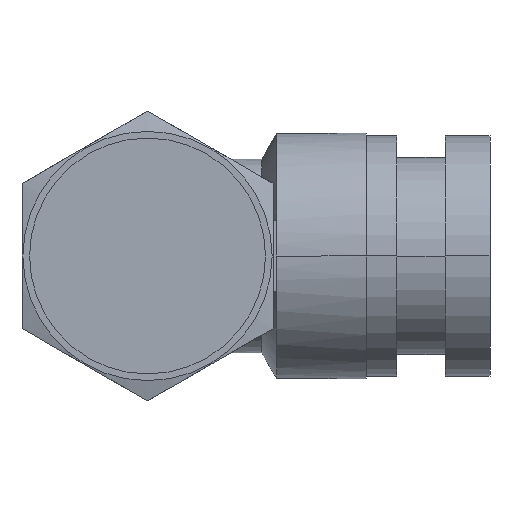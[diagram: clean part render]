
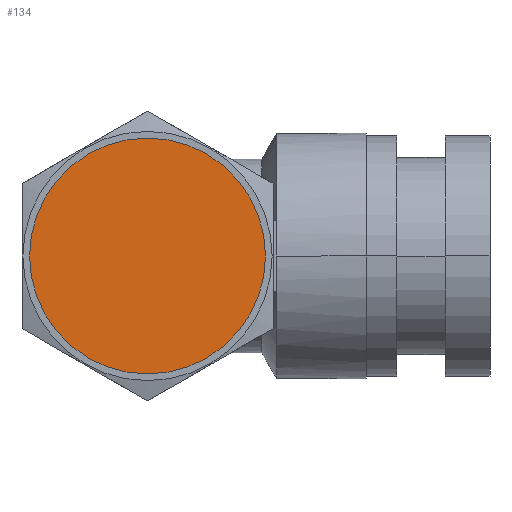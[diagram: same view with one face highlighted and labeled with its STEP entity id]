
A CAD part, front view. The second image highlights one B-rep face of the part: STEP entity #134.
In plain terms, the highlighted planar face has unit normal (0, -1, 0).
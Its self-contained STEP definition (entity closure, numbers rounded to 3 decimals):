
#134 = ADVANCED_FACE( '', ( #261 ), #262, .T. );
#261 = FACE_OUTER_BOUND( '', #388, .T. );
#262 = PLANE( '', #389 );
#388 = EDGE_LOOP( '', ( #853, #854 ) );
#389 = AXIS2_PLACEMENT_3D( '', #855, #856, #857 );
#853 = ORIENTED_EDGE( '', *, *, #861, .T. );
#854 = ORIENTED_EDGE( '', *, *, #1001, .T. );
#855 = CARTESIAN_POINT( '', ( -3.289, -4.75, 0. ) );
#856 = DIRECTION( '', ( 0., -1., 0. ) );
#857 = DIRECTION( '', ( -1., 0., 0. ) );
#861 = EDGE_CURVE( '', #1003, #1007, #1009, .T. );
#1001 = EDGE_CURVE( '', #1007, #1003, #1238, .T. );
#1003 = VERTEX_POINT( '', #1240 );
#1007 = VERTEX_POINT( '', #1245 );
#1009 = CIRCLE( '', #1248, 6.579 );
#1238 = CIRCLE( '', #1821, 6.579 );
#1240 = CARTESIAN_POINT( '', ( -6.579, -4.75, 0. ) );
#1245 = CARTESIAN_POINT( '', ( 6.579, -4.75, 0. ) );
#1248 = AXIS2_PLACEMENT_3D( '', #1827, #1828, #1829 );
#1821 = AXIS2_PLACEMENT_3D( '', #2045, #2046, #2047 );
#1827 = CARTESIAN_POINT( '', ( 0., -4.75, 0. ) );
#1828 = DIRECTION( '', ( 0., -1., 0. ) );
#1829 = DIRECTION( '', ( -1., 0., 0. ) );
#2045 = CARTESIAN_POINT( '', ( 0., -4.75, 0. ) );
#2046 = DIRECTION( '', ( 0., -1., 0. ) );
#2047 = DIRECTION( '', ( -1., 0., 0. ) );
